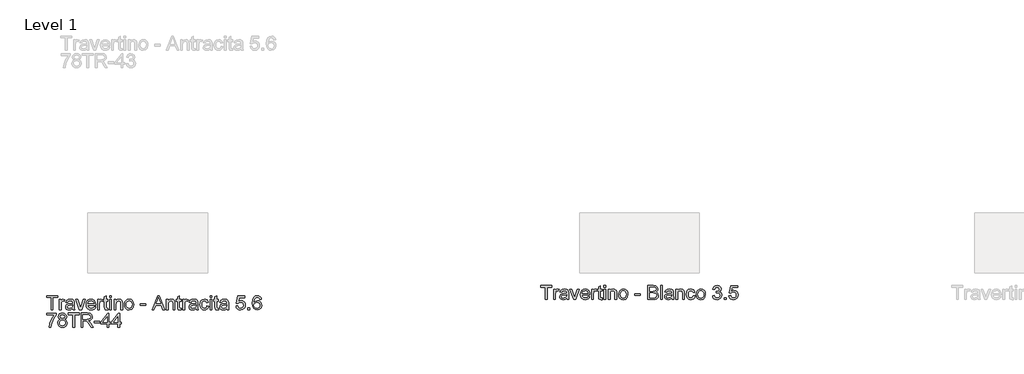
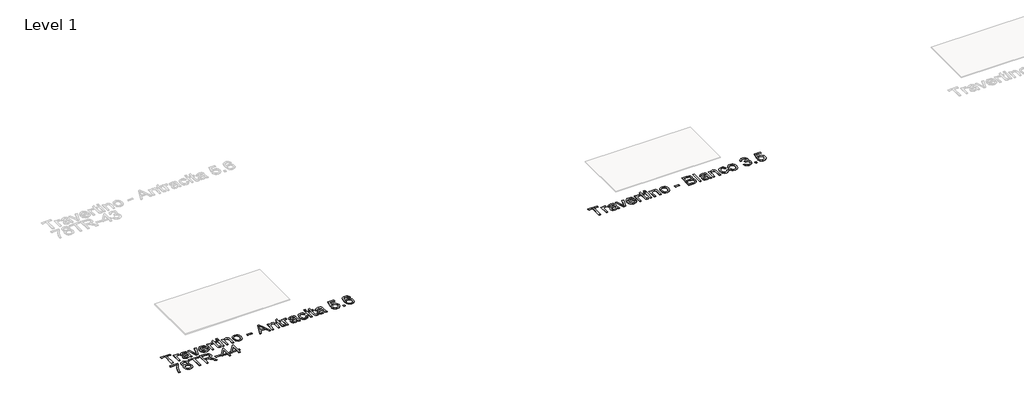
# One storey, part 13 of 80: 2 proxies.
"""IFC4 building model written with IfcOpenShell, lengths in millimetres."""

import ifcopenshell
import ifcopenshell.guid

model = None  # the IFC model being written
_history = None  # IfcOwnerHistory: only IFC2X3 demands one
_inside = {}  # id of a spatial element -> (the spatial element, [elements in it])
_under = {}  # id of a project, library or spatial element -> (it, [spatial elements below it])
_declared = {}  # id of a project -> (the project, [libraries it declares])
_typed = {}  # id of a type object -> (the type object, [elements of that type])
_made_of = {}  # id of a material, layer set ... -> (it, [elements and type objects made of it])


def new_model(schema):
    """Start an empty IFC model of exactly this schema.

    Asked for "IFC4X3", IfcOpenShell would pick the latest addendum, in which some entities
    have other attributes; the version numbers below select the first issue.
    IFC2X3 requires an IfcOwnerHistory on every rooted entity: one is made here for all.
    """
    global model, _history
    if schema == "IFC4X3":
        model = ifcopenshell.file(schema_version=(4, 3, 0, 0))
    else:
        model = ifcopenshell.file(schema=schema)
    _inside.clear()
    _under.clear()
    _declared.clear()
    _typed.clear()
    _made_of.clear()
    _history = None
    if model.schema == "IFC2X3":
        org = make("IfcOrganization", Name="unknown")
        user = make(
            "IfcPersonAndOrganization",
            ThePerson=make("IfcPerson", FamilyName="unknown"),
            TheOrganization=org,
        )
        app = make(
            "IfcApplication",
            ApplicationDeveloper=org,
            Version="unknown",
            ApplicationFullName="unknown",
            ApplicationIdentifier="unknown",
        )
        _history = make(
            "IfcOwnerHistory",
            OwningUser=user,
            OwningApplication=app,
            ChangeAction="ADDED",
            CreationDate=0,
        )
    return model


def make(cls, **values):
    """One entity of the class cls with the attributes given. An attribute that is None is left unset."""
    return model.create_entity(
        cls, **{name: value for name, value in values.items() if value is not None}
    )


def rooted(cls, **values):
    """An entity with a GlobalId (a new one), such as an element, a storey or a relation."""
    return make(cls, GlobalId=ifcopenshell.guid.new(), OwnerHistory=_history, **values)


def si_unit(unit_type, name, prefix=None):
    """IfcSIUnit, for example si_unit("LENGTHUNIT", "METRE", prefix="MILLI")."""
    return make("IfcSIUnit", UnitType=unit_type, Prefix=prefix, Name=name)


def assignment(units):
    """IfcUnitAssignment: the units of a project."""
    return None if units is None else make("IfcUnitAssignment", Units=units)


def point(xyz):
    """IfcCartesianPoint."""
    return None if xyz is None else make("IfcCartesianPoint", Coordinates=xyz)


def direction(xyz):
    """IfcDirection."""
    return None if xyz is None else make("IfcDirection", DirectionRatios=xyz)


def frame(location, z_axis=None, x_axis=None):
    """IfcAxis2Placement3D, a coordinate frame: its origin and axes. An axis left out is left unset."""
    return make(
        "IfcAxis2Placement3D",
        Location=point(location),
        Axis=direction(z_axis),
        RefDirection=direction(x_axis),
    )


def origin():
    """The frame at (0, 0, 0) with its axes left unset."""
    return frame((0.0, 0.0, 0.0))


def origin_with_axes():
    """The frame at (0, 0, 0) with the z axis (0, 0, 1) and the x axis (1, 0, 0) written out."""
    return frame((0.0, 0.0, 0.0), z_axis=(0.0, 0.0, 1.0), x_axis=(1.0, 0.0, 0.0))


def place(relative_to, where):
    """IfcLocalPlacement: puts the frame where relative to a parent placement (None: the world)."""
    return make(
        "IfcLocalPlacement", PlacementRelTo=relative_to, RelativePlacement=where
    )


def context(
    kind, dimensions, precision=None, world=None, true_north=None, identifier=None
):
    """IfcGeometricRepresentationContext, for example the 3D "Model" context."""
    return make(
        "IfcGeometricRepresentationContext",
        ContextIdentifier=identifier,
        ContextType=kind,
        CoordinateSpaceDimension=dimensions,
        Precision=precision,
        WorldCoordinateSystem=world,
        TrueNorth=true_north,
    )


def project(units=None, contexts=None):
    """IfcProject with its units and contexts."""
    return rooted(
        "IfcProject",
        Name="project",
        RepresentationContexts=contexts,
        UnitsInContext=assignment(units),
    )


def spatial(cls, under=None, at=None, **own):
    """A site, building, storey or space (cls), placed at a placement, below another one or the project."""
    s = rooted(cls, ObjectPlacement=at, **own)
    if under is not None:
        _under.setdefault(under.id(), (under, []))[1].append(s)
    return s


def polyline(points):
    """IfcPolyline through the points."""
    return make("IfcPolyline", Points=[point(p) for p in points])


def outline(outer, holes=None, kind="AREA"):
    """IfcArbitraryClosedProfileDef: a profile drawn as a closed curve; with holes, ...WithVoids."""
    if holes is None:
        return make("IfcArbitraryClosedProfileDef", ProfileType=kind, OuterCurve=outer)
    return make(
        "IfcArbitraryProfileDefWithVoids",
        ProfileType=kind,
        OuterCurve=outer,
        InnerCurves=holes,
    )


def extrude(swept, where, along, depth):
    """IfcExtrudedAreaSolid: the profile swept, set in the frame where, extruded along a direction by depth."""
    return make(
        "IfcExtrudedAreaSolid",
        SweptArea=swept,
        Position=where,
        ExtrudedDirection=direction(along),
        Depth=depth,
    )


def shape(context_of_items, identifier, shape_type, items):
    """IfcShapeRepresentation: the items that make up one representation, for example the "Body"."""
    return make(
        "IfcShapeRepresentation",
        ContextOfItems=context_of_items,
        RepresentationIdentifier=identifier,
        RepresentationType=shape_type,
        Items=items,
    )


def made_of(thing, what):
    """Note that an element or type object is made of a material, layer set ...; save() writes the relation."""
    if what is not None:
        _made_of.setdefault(what.id(), (what, []))[1].append(thing)
    return thing


def element(
    cls,
    number,
    at=None,
    inside=None,
    cuts=None,
    type_object=None,
    material=None,
    context=None,
    identifier="Body",
    shape_type=None,
    held_by="IfcProductDefinitionShape",
    body=None,
    shapes=None,
    **own,
):
    """One element of the class cls, such as IfcWall. Its Tag is "e" and its number.

    at: its placement. inside: the storey or other place that contains it. cuts: it is an
    opening in that element (IfcRelVoidsElement). A single representation is given by context,
    identifier, shape_type and body (its items); several are given by shapes. held_by: the class
    of the entity that holds the representations. save() writes the other relations.
    """
    e = rooted(cls, Tag="e%d" % number, ObjectPlacement=at, **own)
    if body is not None:
        shapes = [shape(context, identifier, shape_type, body)]
    if shapes is not None:
        e.Representation = make(held_by, Representations=shapes)
    if inside is not None:
        _inside.setdefault(inside.id(), (inside, []))[1].append(e)
    if cuts is not None:
        rooted(
            "IfcRelVoidsElement", RelatingBuildingElement=cuts, RelatedOpeningElement=e
        )
    if type_object is not None:
        _typed.setdefault(type_object.id(), (type_object, []))[1].append(e)
    return made_of(e, material)


def aggregate(whole, parts):
    """IfcRelAggregates: a whole, such as a stair, and the parts it consists of."""
    return rooted("IfcRelAggregates", RelatingObject=whole, RelatedObjects=parts)


def save(model, path):
    """Write the relations noted so far, then the file.

    IfcRelAggregates (storeys below a building ...), IfcRelContainedInSpatialStructure (elements
    in a storey), IfcRelDefinesByType, IfcRelAssociatesMaterial and IfcRelDeclares: one each for
    every whole, place, type object, material and project.
    """
    for whole, parts in _under.values():
        aggregate(whole, parts)
    for where, things in _inside.values():
        rooted(
            "IfcRelContainedInSpatialStructure",
            RelatedElements=things,
            RelatingStructure=where,
        )
    for kind, things in _typed.values():
        rooted("IfcRelDefinesByType", RelatedObjects=things, RelatingType=kind)
    for what, things in _made_of.values():
        rooted("IfcRelAssociatesMaterial", RelatedObjects=things, RelatingMaterial=what)
    for by, libraries in _declared.values():
        rooted("IfcRelDeclares", RelatingContext=by, RelatedDefinitions=libraries)
    model.write(path)


model = new_model("IFC4")

# Units and contexts
model_context = context("Model", 3, world=origin())
ifc_project = project(units=[si_unit("LENGTHUNIT", "METRE", prefix="MILLI")], contexts=[model_context])

# Site, building, storey
site = spatial("IfcSite", under=ifc_project)
building = spatial("IfcBuilding", under=site)
storey = spatial("IfcBuildingStorey", under=building, Name="Level 1", Elevation=0.0)

# Proxies
placement = place(None, origin())
element("IfcBuildingElementProxy", 1, Name="24\" Arial", ObjectType="24\" Arial", at=placement, inside=storey, context=model_context, shape_type="SweptSolid", body=[
    extrude(outline(polyline([(-23423.1678604, -12507.7661662), (-23423.1678604, -12404.3815508), (-23461.9370911, -12404.3815508), (-23461.9370911, -12389.61232), (-23369.6293988, -12389.61232), (-23369.6293988, -12404.3815508), (-23408.3986296, -12404.3815508), (-23408.3986296, -12507.7661662), (-23423.1678604, -12507.7661662)])), origin_with_axes(), (0.0, 0.0, 1.0), 2.0),
    extrude(outline(polyline([(-23354.8601681, -12507.7661662), (-23354.8601681, -12420.9969354), (-23341.9370911, -12420.9969354), (-23341.9370911, -12433.8334739), (-23332.7640142, -12422.0065508), (-23323.533245, -12419.1507816), (-23308.7063219, -12423.7084739), (-23313.6390142, -12436.9488585), (-23324.0236296, -12433.9200123), (-23332.3745911, -12436.8334739), (-23337.6967065, -12444.9103969), (-23340.0909373, -12462.1603969), (-23340.0909373, -12507.7661662), (-23354.8601681, -12507.7661662)])), origin_with_axes(), (0.0, 0.0, 1.0), 2.0),
    extrude(outline(polyline([(-23244.0909373, -12496.6892431), (-23258.4130527, -12506.6988585), (-23274.2351681, -12509.61232), (-23286.5777161, -12507.8599162), (-23295.6822835, -12502.6027046), (-23301.2964661, -12494.6195316), (-23303.1678604, -12484.6892431), (-23300.3409373, -12473.0065508), (-23292.9130527, -12464.5257816), (-23282.5717065, -12459.6796277), (-23269.7928604, -12457.4584739), (-23244.1774758, -12452.3815508), (-23244.0909373, -12449.0930892), (-23248.158245, -12438.1892431), (-23264.4851681, -12433.9200123), (-23279.4274758, -12436.7613585), (-23286.5524758, -12446.8430892), (-23301.3217065, -12444.9969354), (-23294.9322835, -12430.5738585), (-23282.0668988, -12422.1219354), (-23262.5813219, -12419.1507816), (-23244.6822835, -12421.7757816), (-23234.5717065, -12428.3671277), (-23230.0428604, -12438.3911662), (-23229.3217065, -12451.3142431), (-23229.3217065, -12469.6892431), (-23228.5717065, -12495.3478969), (-23225.6293988, -12507.7661662), (-23240.3986296, -12507.7661662), (-23244.0909373, -12496.6892431)]), holes=[polyline([(-23244.0909373, -12467.1507816), (-23267.9178604, -12471.6796277), (-23280.6245911, -12474.0738585), (-23286.3793988, -12477.9680892), (-23288.3986296, -12483.6507816), (-23283.9995911, -12491.6411662), (-23271.0909373, -12494.8430892), (-23256.1486296, -12491.3094354), (-23246.5140142, -12482.7565508), (-23244.1774758, -12471.3334739), (-23244.0909373, -12467.1507816)])]), origin_with_axes(), (0.0, 0.0, 1.0), 2.0),
    extrude(outline(polyline([(-23187.7255527, -12507.7661662), (-23218.2447835, -12420.9969354), (-23202.6101681, -12420.9969354), (-23184.1197835, -12472.9777046), (-23178.5524758, -12490.4584739), (-23173.1005527, -12473.9584739), (-23154.4947835, -12420.9969354), (-23138.8601681, -12420.9969354), (-23169.0043988, -12507.7661662), (-23187.7255527, -12507.7661662)])), origin_with_axes(), (0.0, 0.0, 1.0), 2.0),
    extrude(outline(polyline([(-23065.1870911, -12481.9200123), (-23050.7063219, -12483.7661662), (-23055.92387, -12494.6772239), (-23064.2495911, -12502.8334739), (-23075.4959854, -12507.9176085), (-23089.4755527, -12509.61232), (-23106.8048796, -12506.6880412), (-23120.1390142, -12497.9152046), (-23128.6414181, -12483.8635219), (-23131.4755527, -12465.1027046), (-23128.6125719, -12445.7108777), (-23120.0236296, -12431.2084739), (-23106.8697835, -12422.1652046), (-23090.3120911, -12419.1507816), (-23074.2700238, -12422.1579931), (-23061.4515142, -12431.1796277), (-23053.0464661, -12445.6531854), (-23050.2447835, -12465.0161662), (-23050.3313219, -12468.9969354), (-23116.7063219, -12468.9969354), (-23114.1498315, -12480.0522239), (-23108.2111296, -12488.1796277), (-23099.6402161, -12493.1772239), (-23089.1870911, -12494.8430892), (-23074.7063219, -12491.7565508), (-23065.1870911, -12481.9200123)]), holes=[polyline([(-23116.7063219, -12454.2277046), (-23065.0140142, -12454.2277046), (-23070.9274758, -12440.8430892), (-23079.5380527, -12435.6507816), (-23090.3697835, -12433.9200123), (-23108.5572835, -12439.4440508), (-23114.2796392, -12445.9019835), (-23116.7063219, -12454.2277046)])]), origin_with_axes(), (0.0, 0.0, 1.0), 2.0),
    extrude(outline(polyline([(-23035.4755527, -12507.7661662), (-23035.4755527, -12420.9969354), (-23022.5524758, -12420.9969354), (-23022.5524758, -12433.8334739), (-23013.3793988, -12422.0065508), (-23004.1486296, -12419.1507816), (-22989.3217065, -12423.7084739), (-22994.2543988, -12436.9488585), (-23004.6390142, -12433.9200123), (-23012.9899758, -12436.8334739), (-23018.3120911, -12444.9103969), (-23020.7063219, -12462.1603969), (-23020.7063219, -12507.7661662), (-23035.4755527, -12507.7661662)])), origin_with_axes(), (0.0, 0.0, 1.0), 2.0),
    extrude(outline(polyline([(-22948.7063219, -12495.4488585), (-22946.8601681, -12508.1988585), (-22957.908245, -12509.61232), (-22970.283245, -12507.1603969), (-22976.4563219, -12500.7277046), (-22978.2447835, -12483.9680892), (-22978.2447835, -12435.7661662), (-22989.3217065, -12435.7661662), (-22989.3217065, -12420.9969354), (-22978.2447835, -12420.9969354), (-22978.2447835, -12399.9103969), (-22963.4755527, -12391.2277046), (-22963.4755527, -12420.9969354), (-22948.7063219, -12420.9969354), (-22948.7063219, -12435.7661662), (-22963.4755527, -12435.7661662), (-22963.4755527, -12483.5353969), (-22962.6967065, -12491.1507816), (-22960.1726681, -12493.8478969), (-22955.1390142, -12494.8430892), (-22948.7063219, -12495.4488585)])), origin_with_axes(), (0.0, 0.0, 1.0), 2.0),
    extrude(outline(polyline([(-22933.9370911, -12404.3815508), (-22933.9370911, -12389.61232), (-22919.1678604, -12389.61232), (-22919.1678604, -12404.3815508), (-22933.9370911, -12404.3815508)])), origin_with_axes(), (0.0, 0.0, 1.0), 2.0),
    extrude(outline(polyline([(-22933.9370911, -12507.7661662), (-22933.9370911, -12420.9969354), (-22919.1678604, -12420.9969354), (-22919.1678604, -12507.7661662), (-22933.9370911, -12507.7661662)])), origin_with_axes(), (0.0, 0.0, 1.0), 2.0),
    extrude(outline(polyline([(-22897.0140142, -12507.7661662), (-22897.0140142, -12420.9969354), (-22882.2447835, -12420.9969354), (-22882.2447835, -12433.11232), (-22870.9515142, -12422.6411662), (-22855.533245, -12419.1507816), (-22841.5861296, -12421.9632816), (-22832.0668988, -12429.3478969), (-22827.6390142, -12440.2084739), (-22826.8601681, -12454.48732), (-22826.8601681, -12507.7661662), (-22841.6293988, -12507.7661662), (-22841.6293988, -12456.4777046), (-22843.3313219, -12443.4103969), (-22849.345745, -12436.5017431), (-22859.4851681, -12433.9200123), (-22875.5092065, -12439.7180892), (-22880.5608892, -12448.1195316), (-22882.2447835, -12461.7277046), (-22882.2447835, -12507.7661662), (-22897.0140142, -12507.7661662)])), origin_with_axes(), (0.0, 0.0, 1.0), 2.0),
    extrude(outline(polyline([(-22810.2447835, -12464.3815508), (-22807.0500719, -12443.4608777), (-22797.4659373, -12428.7565508), (-22785.6245911, -12421.5522239), (-22771.4467065, -12419.1507816), (-22755.9310815, -12422.0750604), (-22743.5380527, -12430.8478969), (-22735.4142546, -12444.7769835), (-22732.7063219, -12463.1700123), (-22737.4947835, -12489.4488585), (-22751.4418988, -12504.3190508), (-22771.4467065, -12509.61232), (-22787.1498315, -12506.6988585), (-22799.5284373, -12497.9584739), (-22807.5656969, -12483.73732), (-22810.2447835, -12464.3815508)]), holes=[polyline([(-22795.4755527, -12464.3527046), (-22793.7664181, -12477.7192912), (-22788.6390142, -12487.2421277), (-22780.9226681, -12492.9428489), (-22771.4467065, -12494.8430892), (-22762.0140142, -12492.9320316), (-22754.3120911, -12487.1988585), (-22749.1846873, -12477.54982), (-22747.4755527, -12463.8911662), (-22749.1955046, -12450.9140027), (-22754.3553604, -12441.5209739), (-22762.0681008, -12435.8202527), (-22771.4467065, -12433.9200123), (-22780.9226681, -12435.8130412), (-22788.6390142, -12441.4921277), (-22793.7664181, -12450.9933296), (-22795.4755527, -12464.3527046)])]), origin_with_axes(), (0.0, 0.0, 1.0), 2.0),
    extrude(outline(polyline([(-22677.3217065, -12472.6892431), (-22677.3217065, -12457.9200123), (-22631.1678604, -12457.9200123), (-22631.1678604, -12472.6892431), (-22677.3217065, -12472.6892431)])), origin_with_axes(), (0.0, 0.0, 1.0), 2.0),
    extrude(outline(polyline([(-22580.3120911, -12507.7661662), (-22533.1486296, -12389.61232), (-22520.5717065, -12389.61232), (-22473.408245, -12507.7661662), (-22489.0140142, -12507.7661662), (-22502.5428604, -12470.8430892), (-22551.2063219, -12470.8430892), (-22564.7063219, -12507.7661662), (-22580.3120911, -12507.7661662)]), holes=[polyline([(-22545.783245, -12456.0738585), (-22507.9370911, -12456.0738585), (-22518.5813219, -12427.0257816), (-22526.8601681, -12404.3815508), (-22534.2159373, -12424.48732), (-22545.783245, -12456.0738585)])]), origin_with_axes(), (0.0, 0.0, 1.0), 2.0),
    extrude(outline(polyline([(-22459.4755527, -12507.7661662), (-22459.4755527, -12420.9969354), (-22444.7063219, -12420.9969354), (-22444.7063219, -12433.11232), (-22433.4130527, -12422.6411662), (-22417.9947835, -12419.1507816), (-22404.0476681, -12421.9632816), (-22394.5284373, -12429.3478969), (-22390.1005527, -12440.2084739), (-22389.3217065, -12454.48732), (-22389.3217065, -12507.7661662), (-22404.0909373, -12507.7661662), (-22404.0909373, -12456.4777046), (-22405.7928604, -12443.4103969), (-22411.8072835, -12436.5017431), (-22421.9467065, -12433.9200123), (-22437.970745, -12439.7180892), (-22443.0224277, -12448.1195316), (-22444.7063219, -12461.7277046), (-22444.7063219, -12507.7661662), (-22459.4755527, -12507.7661662)])), origin_with_axes(), (0.0, 0.0, 1.0), 2.0),
    extrude(outline(polyline([(-22337.6293988, -12495.4488585), (-22335.783245, -12508.1988585), (-22346.8313219, -12509.61232), (-22359.2063219, -12507.1603969), (-22365.3793988, -12500.7277046), (-22367.1678604, -12483.9680892), (-22367.1678604, -12435.7661662), (-22378.2447835, -12435.7661662), (-22378.2447835, -12420.9969354), (-22367.1678604, -12420.9969354), (-22367.1678604, -12399.9103969), (-22352.3986296, -12391.2277046), (-22352.3986296, -12420.9969354), (-22337.6293988, -12420.9969354), (-22337.6293988, -12435.7661662), (-22352.3986296, -12435.7661662), (-22352.3986296, -12483.5353969), (-22351.6197835, -12491.1507816), (-22349.095745, -12493.8478969), (-22344.0620911, -12494.8430892), (-22337.6293988, -12495.4488585)])), origin_with_axes(), (0.0, 0.0, 1.0), 2.0),
    extrude(outline(polyline([(-22322.8601681, -12507.7661662), (-22322.8601681, -12420.9969354), (-22309.9370911, -12420.9969354), (-22309.9370911, -12433.8334739), (-22300.7640142, -12422.0065508), (-22291.533245, -12419.1507816), (-22276.7063219, -12423.7084739), (-22281.6390142, -12436.9488585), (-22292.0236296, -12433.9200123), (-22300.3745911, -12436.8334739), (-22305.6967065, -12444.9103969), (-22308.0909373, -12462.1603969), (-22308.0909373, -12507.7661662), (-22322.8601681, -12507.7661662)])), origin_with_axes(), (0.0, 0.0, 1.0), 2.0),
    extrude(outline(polyline([(-22212.0909373, -12496.6892431), (-22226.4130527, -12506.6988585), (-22242.2351681, -12509.61232), (-22254.5777161, -12507.8599162), (-22263.6822835, -12502.6027046), (-22269.2964661, -12494.6195316), (-22271.1678604, -12484.6892431), (-22268.3409373, -12473.0065508), (-22260.9130527, -12464.5257816), (-22250.5717065, -12459.6796277), (-22237.7928604, -12457.4584739), (-22212.1774758, -12452.3815508), (-22212.0909373, -12449.0930892), (-22216.158245, -12438.1892431), (-22232.4851681, -12433.9200123), (-22247.4274758, -12436.7613585), (-22254.5524758, -12446.8430892), (-22269.3217065, -12444.9969354), (-22262.9322835, -12430.5738585), (-22250.0668988, -12422.1219354), (-22230.5813219, -12419.1507816), (-22212.6822835, -12421.7757816), (-22202.5717065, -12428.3671277), (-22198.0428604, -12438.3911662), (-22197.3217065, -12451.3142431), (-22197.3217065, -12469.6892431), (-22196.5717065, -12495.3478969), (-22193.6293988, -12507.7661662), (-22208.3986296, -12507.7661662), (-22212.0909373, -12496.6892431)]), holes=[polyline([(-22212.0909373, -12467.1507816), (-22235.9178604, -12471.6796277), (-22248.6245911, -12474.0738585), (-22254.3793988, -12477.9680892), (-22256.3986296, -12483.6507816), (-22251.9995911, -12491.6411662), (-22239.0909373, -12494.8430892), (-22224.1486296, -12491.3094354), (-22214.5140142, -12482.7565508), (-22212.1774758, -12471.3334739), (-22212.0909373, -12467.1507816)])]), origin_with_axes(), (0.0, 0.0, 1.0), 2.0),
    extrude(outline(polyline([(-22121.6293988, -12476.3815508), (-22106.8601681, -12478.2277046), (-22110.9779565, -12491.3635219), (-22118.7159373, -12501.2902046), (-22129.345745, -12507.5317912), (-22142.1390142, -12509.61232), (-22157.8493508, -12506.7096758), (-22170.1342065, -12498.0017431), (-22178.0632931, -12483.8707335), (-22180.7063219, -12464.6988585), (-22176.1918988, -12440.1652046), (-22170.4947835, -12430.9668873), (-22162.4322835, -12424.4007816), (-22142.3409373, -12419.1507816), (-22129.86137, -12420.9536662), (-22119.8842065, -12426.36232), (-22112.7267546, -12435.0882816), (-22108.7063219, -12446.8430892), (-22123.4755527, -12448.6892431), (-22130.3265142, -12437.6267431), (-22142.2255527, -12433.9200123), (-22151.7700238, -12435.7445316), (-22159.345745, -12441.2180892), (-22164.2892546, -12450.6363585), (-22165.9370911, -12464.2950123), (-22164.3253123, -12478.1375604), (-22159.4899758, -12487.5882816), (-22152.0512738, -12493.0293873), (-22142.6293988, -12494.8430892), (-22128.7111296, -12490.3142431), (-22121.6293988, -12476.3815508)])), origin_with_axes(), (0.0, 0.0, 1.0), 2.0),
    extrude(outline(polyline([(-22093.9370911, -12404.3815508), (-22093.9370911, -12389.61232), (-22079.1678604, -12389.61232), (-22079.1678604, -12404.3815508), (-22093.9370911, -12404.3815508)])), origin_with_axes(), (0.0, 0.0, 1.0), 2.0),
    extrude(outline(polyline([(-22093.9370911, -12507.7661662), (-22093.9370911, -12420.9969354), (-22079.1678604, -12420.9969354), (-22079.1678604, -12507.7661662), (-22093.9370911, -12507.7661662)])), origin_with_axes(), (0.0, 0.0, 1.0), 2.0),
    extrude(outline(polyline([(-22025.6293988, -12495.4488585), (-22023.783245, -12508.1988585), (-22034.8313219, -12509.61232), (-22047.2063219, -12507.1603969), (-22053.3793988, -12500.7277046), (-22055.1678604, -12483.9680892), (-22055.1678604, -12435.7661662), (-22066.2447835, -12435.7661662), (-22066.2447835, -12420.9969354), (-22055.1678604, -12420.9969354), (-22055.1678604, -12399.9103969), (-22040.3986296, -12391.2277046), (-22040.3986296, -12420.9969354), (-22025.6293988, -12420.9969354), (-22025.6293988, -12435.7661662), (-22040.3986296, -12435.7661662), (-22040.3986296, -12483.5353969), (-22039.6197835, -12491.1507816), (-22037.095745, -12493.8478969), (-22032.0620911, -12494.8430892), (-22025.6293988, -12495.4488585)])), origin_with_axes(), (0.0, 0.0, 1.0), 2.0),
    extrude(outline(polyline([(-21955.4755527, -12496.6892431), (-21969.7976681, -12506.6988585), (-21985.6197835, -12509.61232), (-21997.9623315, -12507.8599162), (-22007.0668988, -12502.6027046), (-22012.6810815, -12494.6195316), (-22014.5524758, -12484.6892431), (-22011.7255527, -12473.0065508), (-22004.2976681, -12464.5257816), (-21993.9563219, -12459.6796277), (-21981.1774758, -12457.4584739), (-21955.5620911, -12452.3815508), (-21955.4755527, -12449.0930892), (-21959.5428604, -12438.1892431), (-21975.8697835, -12433.9200123), (-21990.8120911, -12436.7613585), (-21997.9370911, -12446.8430892), (-22012.7063219, -12444.9969354), (-22006.3168988, -12430.5738585), (-21993.4515142, -12422.1219354), (-21973.9659373, -12419.1507816), (-21956.0668988, -12421.7757816), (-21945.9563219, -12428.3671277), (-21941.4274758, -12438.3911662), (-21940.7063219, -12451.3142431), (-21940.7063219, -12469.6892431), (-21939.9563219, -12495.3478969), (-21937.0140142, -12507.7661662), (-21951.783245, -12507.7661662), (-21955.4755527, -12496.6892431)]), holes=[polyline([(-21955.4755527, -12467.1507816), (-21979.3024758, -12471.6796277), (-21992.0092065, -12474.0738585), (-21997.7640142, -12477.9680892), (-21999.783245, -12483.6507816), (-21995.3842065, -12491.6411662), (-21982.4755527, -12494.8430892), (-21967.533245, -12491.3094354), (-21957.8986296, -12482.7565508), (-21955.5620911, -12471.3334739), (-21955.4755527, -12467.1507816)])]), origin_with_axes(), (0.0, 0.0, 1.0), 2.0),
    extrude(outline(polyline([(-21877.9370911, -12476.3815508), (-21863.1678604, -12474.5353969), (-21855.7255527, -12489.7517431), (-21840.2928604, -12494.8430892), (-21829.7063219, -12493.0726566), (-21821.7736296, -12487.7613585), (-21816.8193027, -12479.5221758), (-21815.1678604, -12468.9680892), (-21816.7147354, -12459.0305892), (-21821.3553604, -12451.4296277), (-21829.1257931, -12446.6051085), (-21840.0620911, -12444.9969354), (-21853.0284373, -12447.5642431), (-21861.3217065, -12454.2277046), (-21876.0909373, -12452.3815508), (-21863.1678604, -12391.4584739), (-21805.9370911, -12391.4584739), (-21805.9370911, -12406.2277046), (-21851.2255527, -12406.2277046), (-21857.5428604, -12438.7661662), (-21846.9923796, -12432.36232), (-21835.9370911, -12430.2277046), (-21822.1378123, -12432.8743392), (-21810.6822835, -12440.8142431), (-21802.9695431, -12452.9152046), (-21800.3986296, -12468.0450123), (-21802.7135335, -12482.8142431), (-21809.658245, -12495.4488585), (-21822.9563219, -12506.0714546), (-21840.3505527, -12509.61232), (-21854.8565623, -12507.3370796), (-21866.4130527, -12500.5113585), (-21874.3349277, -12489.9284258), (-21877.9370911, -12476.3815508)])), origin_with_axes(), (0.0, 0.0, 1.0), 2.0),
    extrude(outline(polyline([(-21780.0909373, -12507.7661662), (-21780.0909373, -12492.9969354), (-21765.3217065, -12492.9969354), (-21765.3217065, -12507.7661662), (-21780.0909373, -12507.7661662)])), origin_with_axes(), (0.0, 0.0, 1.0), 2.0),
    extrude(outline(polyline([(-21665.6293988, -12420.9969354), (-21680.3986296, -12422.8430892), (-21685.9947835, -12410.5257816), (-21692.6943027, -12405.9176085), (-21700.7928604, -12404.3815508), (-21714.1197835, -12407.9584739), (-21724.2015142, -12421.3863585), (-21728.3986296, -12447.7084739), (-21715.3745911, -12435.92482), (-21699.2351681, -12432.0738585), (-21685.5909373, -12434.70607), (-21674.1390142, -12442.6027046), (-21666.3721873, -12454.6676085), (-21663.783245, -12469.8046277), (-21668.658245, -12490.1844354), (-21682.0717065, -12504.6075123), (-21701.4274758, -12509.61232), (-21718.1834854, -12506.2950123), (-21731.5284373, -12496.3430892), (-21740.2580046, -12478.7757816), (-21743.1678604, -12452.61232), (-21739.9370911, -12423.1964546), (-21730.2447835, -12403.0834739), (-21717.0116104, -12392.9801085), (-21699.8697835, -12389.61232), (-21686.9106488, -12391.6964546), (-21676.533245, -12397.9488585), (-21669.2640142, -12407.8791469), (-21665.6293988, -12420.9969354)]), holes=[polyline([(-21728.3986296, -12469.5738585), (-21724.9803604, -12482.3671277), (-21715.8938219, -12491.6555892), (-21702.5813219, -12494.8430892), (-21692.8349277, -12493.1916469), (-21685.1726681, -12488.23732), (-21680.2075238, -12480.4488585), (-21678.5524758, -12470.2950123), (-21680.1858892, -12460.5486181), (-21685.0861296, -12453.1171277), (-21692.8781969, -12448.4115989), (-21703.1870911, -12446.8430892), (-21712.9190623, -12448.4115989), (-21721.0572835, -12453.1171277), (-21726.5632931, -12460.3683296), (-21728.3986296, -12469.5738585)])]), origin_with_axes(), (0.0, 0.0, 1.0), 2.0),
    extrude(outline(polyline([(-23458.2447835, -12552.0738585), (-23458.2447835, -12537.3046277), (-23380.7063219, -12537.3046277), (-23380.7063219, -12549.2469354), (-23402.7015142, -12581.0209739), (-23419.533245, -12621.5065508), (-23425.0140142, -12653.61232), (-23439.783245, -12653.61232), (-23433.9130527, -12620.2950123), (-23417.8024758, -12582.6363585), (-23395.4755527, -12552.0738585), (-23458.2447835, -12552.0738585)])), origin_with_axes(), (0.0, 0.0, 1.0), 2.0),
    extrude(outline(polyline([(-23346.2640142, -12588.5353969), (-23359.720745, -12579.36232), (-23364.0909373, -12565.0834739), (-23361.7111296, -12553.5378008), (-23354.5717065, -12543.9969354), (-23343.4731488, -12537.5930892), (-23329.2159373, -12535.4584739), (-23314.8721873, -12537.64357), (-23303.6293988, -12544.1988585), (-23296.3601681, -12553.8911662), (-23293.9370911, -12565.48732), (-23298.2495911, -12579.4055892), (-23311.3313219, -12588.5353969), (-23302.2411777, -12593.2192912), (-23295.6245911, -12600.1171277), (-23290.2447835, -12619.2277046), (-23292.9130527, -12633.3478969), (-23300.9178604, -12645.0161662), (-23313.2784373, -12652.8478969), (-23329.0140142, -12655.4584739), (-23344.7495911, -12652.8370796), (-23357.1101681, -12644.9728969), (-23365.1149758, -12633.1928489), (-23367.783245, -12618.8238585), (-23366.3842065, -12608.0930892), (-23362.1870911, -12599.2661662), (-23355.408245, -12592.6459739), (-23346.2640142, -12588.5353969)]), holes=[polyline([(-23353.0140142, -12618.3046277), (-23350.5476681, -12629.42482), (-23341.8217065, -12637.7469354), (-23328.8986296, -12640.6892431), (-23318.845745, -12639.1423681), (-23311.3024758, -12634.5017431), (-23306.5861296, -12627.4740989), (-23305.0140142, -12618.7661662), (-23306.6366104, -12609.9103969), (-23311.5043988, -12602.7277046), (-23319.220745, -12597.9680892), (-23329.3890142, -12596.3815508), (-23339.3012738, -12597.9464546), (-23346.7688219, -12602.6411662), (-23351.4527161, -12609.6868392), (-23353.0140142, -12618.3046277)]), polyline([(-23349.3217065, -12565.5161662), (-23344.0861296, -12577.11232), (-23328.8409373, -12581.61232), (-23313.8986296, -12577.1411662), (-23308.7063219, -12566.1796277), (-23314.0717065, -12554.8286662), (-23329.0140142, -12550.2277046), (-23343.9995911, -12554.7277046), (-23349.3217065, -12565.5161662)])]), origin_with_axes(), (0.0, 0.0, 1.0), 2.0),
    extrude(outline(polyline([(-23242.2447835, -12653.61232), (-23242.2447835, -12550.2277046), (-23281.0140142, -12550.2277046), (-23281.0140142, -12535.4584739), (-23188.7063219, -12535.4584739), (-23188.7063219, -12550.2277046), (-23227.4755527, -12550.2277046), (-23227.4755527, -12653.61232), (-23242.2447835, -12653.61232)])), origin_with_axes(), (0.0, 0.0, 1.0), 2.0),
    extrude(outline(polyline([(-23172.0909373, -12653.61232), (-23172.0909373, -12535.4584739), (-23121.1774758, -12535.4584739), (-23097.5380527, -12538.6459739), (-23084.6149758, -12549.92482), (-23079.783245, -12567.7950123), (-23081.7844469, -12579.4344354), (-23087.7880527, -12589.0834739), (-23097.9743508, -12596.1579931), (-23112.5236296, -12600.0738585), (-23104.1293988, -12606.3911662), (-23092.158245, -12621.5930892), (-23072.4563219, -12653.61232), (-23089.6197835, -12653.61232), (-23104.9947835, -12629.1219354), (-23116.1005527, -12612.9103969), (-23123.9034373, -12605.2517431), (-23130.9274758, -12602.4392431), (-23139.4947835, -12601.9200123), (-23157.3217065, -12601.9200123), (-23157.3217065, -12653.61232), (-23172.0909373, -12653.61232)]), holes=[polyline([(-23157.3217065, -12587.1507816), (-23124.2640142, -12587.1507816), (-23107.4034373, -12585.0594354), (-23097.8265142, -12578.3671277), (-23094.5524758, -12568.3430892), (-23096.1137738, -12561.1387623), (-23100.7976681, -12555.3334739), (-23108.8565623, -12551.5041469), (-23120.5428604, -12550.2277046), (-23157.3217065, -12550.2277046), (-23157.3217065, -12587.1507816)])]), origin_with_axes(), (0.0, 0.0, 1.0), 2.0),
    extrude(outline(polyline([(-23063.1678604, -12618.5353969), (-23063.1678604, -12603.7661662), (-23017.0140142, -12603.7661662), (-23017.0140142, -12618.5353969), (-23063.1678604, -12618.5353969)])), origin_with_axes(), (0.0, 0.0, 1.0), 2.0),
    extrude(outline(polyline([(-22956.0909373, -12653.61232), (-22956.0909373, -12625.9200123), (-23009.6293988, -12625.9200123), (-23009.6293988, -12611.1507816), (-22952.3986296, -12537.3046277), (-22941.3217065, -12537.3046277), (-22941.3217065, -12611.1507816), (-22926.5524758, -12611.1507816), (-22926.5524758, -12625.9200123), (-22941.3217065, -12625.9200123), (-22941.3217065, -12653.61232), (-22956.0909373, -12653.61232)]), holes=[polyline([(-22956.0909373, -12611.1507816), (-22956.0909373, -12565.5161662), (-22991.4563219, -12611.1507816), (-22956.0909373, -12611.1507816)])]), origin_with_axes(), (0.0, 0.0, 1.0), 2.0),
    extrude(outline(polyline([(-22865.6293988, -12653.61232), (-22865.6293988, -12625.9200123), (-22919.1678604, -12625.9200123), (-22919.1678604, -12611.1507816), (-22861.9370911, -12537.3046277), (-22850.8601681, -12537.3046277), (-22850.8601681, -12611.1507816), (-22836.0909373, -12611.1507816), (-22836.0909373, -12625.9200123), (-22850.8601681, -12625.9200123), (-22850.8601681, -12653.61232), (-22865.6293988, -12653.61232)]), holes=[polyline([(-22865.6293988, -12611.1507816), (-22865.6293988, -12565.5161662), (-22900.9947835, -12611.1507816), (-22865.6293988, -12611.1507816)])]), origin_with_axes(), (0.0, 0.0, 1.0), 2.0),
])
element("IfcBuildingElementProxy", 2, Name="24\" Arial", ObjectType="24\" Arial", at=placement, inside=storey, context=model_context, shape_type="SweptSolid", body=[
    extrude(outline(polyline([(-19292.9222617, -12422.5921493), (-19292.9222617, -12319.2075339), (-19331.6914925, -12319.2075339), (-19331.6914925, -12304.4383031), (-19239.3838002, -12304.4383031), (-19239.3838002, -12319.2075339), (-19278.153031, -12319.2075339), (-19278.153031, -12422.5921493), (-19292.9222617, -12422.5921493)])), origin_with_axes(), (0.0, 0.0, 1.0), 2.0),
    extrude(outline(polyline([(-19224.6145694, -12422.5921493), (-19224.6145694, -12335.8229185), (-19211.6914925, -12335.8229185), (-19211.6914925, -12348.659457), (-19202.5184156, -12336.8325339), (-19193.2876464, -12333.9767646), (-19178.4607233, -12338.534457), (-19183.3934156, -12351.7748416), (-19193.778031, -12348.7459954), (-19202.1289925, -12351.659457), (-19207.4511079, -12359.73638), (-19209.8453387, -12376.98638), (-19209.8453387, -12422.5921493), (-19224.6145694, -12422.5921493)])), origin_with_axes(), (0.0, 0.0, 1.0), 2.0),
    extrude(outline(polyline([(-19113.8453387, -12411.5152262), (-19128.1674541, -12421.5248416), (-19143.9895694, -12424.4383031), (-19156.3321175, -12422.6858993), (-19165.4366848, -12417.4286877), (-19171.0508675, -12409.4455146), (-19172.9222617, -12399.5152262), (-19170.0953387, -12387.8325339), (-19162.6674541, -12379.3517646), (-19152.3261079, -12374.5056108), (-19139.5472617, -12372.284457), (-19113.9318771, -12367.2075339), (-19113.8453387, -12363.9190723), (-19117.9126464, -12353.0152262), (-19134.2395694, -12348.7459954), (-19149.1818771, -12351.5873416), (-19156.3068771, -12361.6690723), (-19171.0761079, -12359.8229185), (-19164.6866848, -12345.3998416), (-19151.8213002, -12336.9479185), (-19132.3357233, -12333.9767646), (-19114.4366848, -12336.6017646), (-19104.3261079, -12343.1931108), (-19099.7972617, -12353.2171493), (-19099.0761079, -12366.1402262), (-19099.0761079, -12384.5152262), (-19098.3261079, -12410.17388), (-19095.3838002, -12422.5921493), (-19110.153031, -12422.5921493), (-19113.8453387, -12411.5152262)]), holes=[polyline([(-19113.8453387, -12381.9767646), (-19137.6722617, -12386.5056108), (-19150.3789925, -12388.8998416), (-19156.1338002, -12392.7940723), (-19158.153031, -12398.4767646), (-19153.7539925, -12406.4671493), (-19140.8453387, -12409.6690723), (-19125.903031, -12406.1354185), (-19116.2684156, -12397.5825339), (-19113.9318771, -12386.159457), (-19113.8453387, -12381.9767646)])]), origin_with_axes(), (0.0, 0.0, 1.0), 2.0),
    extrude(outline(polyline([(-19057.4799541, -12422.5921493), (-19087.9991848, -12335.8229185), (-19072.3645694, -12335.8229185), (-19053.8741848, -12387.8036877), (-19048.3068771, -12405.284457), (-19042.8549541, -12388.784457), (-19024.2491848, -12335.8229185), (-19008.6145694, -12335.8229185), (-19038.7588002, -12422.5921493), (-19057.4799541, -12422.5921493)])), origin_with_axes(), (0.0, 0.0, 1.0), 2.0),
    extrude(outline(polyline([(-18934.9414925, -12396.7459954), (-18920.4607233, -12398.5921493), (-18925.6782714, -12409.503207), (-18934.0039925, -12417.659457), (-18945.2503867, -12422.7435916), (-18959.2299541, -12424.4383031), (-18976.559281, -12421.5140243), (-18989.8934156, -12412.7411877), (-18998.3958194, -12398.689505), (-19001.2299541, -12379.9286877), (-18998.3669733, -12360.5368608), (-18989.778031, -12346.034457), (-18976.6241848, -12336.9911877), (-18960.0664925, -12333.9767646), (-18944.0244252, -12336.9839762), (-18931.2059156, -12346.0056108), (-18922.8008675, -12360.4791685), (-18919.9991848, -12379.8421493), (-18920.0857233, -12383.8229185), (-18986.4607233, -12383.8229185), (-18983.9042329, -12394.878207), (-18977.965531, -12403.0056108), (-18969.3946175, -12408.003207), (-18958.9414925, -12409.6690723), (-18944.4607233, -12406.5825339), (-18934.9414925, -12396.7459954)]), holes=[polyline([(-18986.4607233, -12369.0536877), (-18934.7684156, -12369.0536877), (-18940.6818771, -12355.6690723), (-18949.2924541, -12350.4767646), (-18960.1241848, -12348.7459954), (-18978.3116848, -12354.2700339), (-18984.0340406, -12360.7279666), (-18986.4607233, -12369.0536877)])]), origin_with_axes(), (0.0, 0.0, 1.0), 2.0),
    extrude(outline(polyline([(-18905.2299541, -12422.5921493), (-18905.2299541, -12335.8229185), (-18892.3068771, -12335.8229185), (-18892.3068771, -12348.659457), (-18883.1338002, -12336.8325339), (-18873.903031, -12333.9767646), (-18859.0761079, -12338.534457), (-18864.0088002, -12351.7748416), (-18874.3934156, -12348.7459954), (-18882.7443771, -12351.659457), (-18888.0664925, -12359.73638), (-18890.4607233, -12376.98638), (-18890.4607233, -12422.5921493), (-18905.2299541, -12422.5921493)])), origin_with_axes(), (0.0, 0.0, 1.0), 2.0),
    extrude(outline(polyline([(-18818.4607233, -12410.2748416), (-18816.6145694, -12423.0248416), (-18827.6626464, -12424.4383031), (-18840.0376464, -12421.98638), (-18846.2107233, -12415.5536877), (-18847.9991848, -12398.7940723), (-18847.9991848, -12350.5921493), (-18859.0761079, -12350.5921493), (-18859.0761079, -12335.8229185), (-18847.9991848, -12335.8229185), (-18847.9991848, -12314.73638), (-18833.2299541, -12306.0536877), (-18833.2299541, -12335.8229185), (-18818.4607233, -12335.8229185), (-18818.4607233, -12350.5921493), (-18833.2299541, -12350.5921493), (-18833.2299541, -12398.36138), (-18832.4511079, -12405.9767646), (-18829.9270694, -12408.67388), (-18824.8934156, -12409.6690723), (-18818.4607233, -12410.2748416)])), origin_with_axes(), (0.0, 0.0, 1.0), 2.0),
    extrude(outline(polyline([(-18803.6914925, -12319.2075339), (-18803.6914925, -12304.4383031), (-18788.9222617, -12304.4383031), (-18788.9222617, -12319.2075339), (-18803.6914925, -12319.2075339)])), origin_with_axes(), (0.0, 0.0, 1.0), 2.0),
    extrude(outline(polyline([(-18803.6914925, -12422.5921493), (-18803.6914925, -12335.8229185), (-18788.9222617, -12335.8229185), (-18788.9222617, -12422.5921493), (-18803.6914925, -12422.5921493)])), origin_with_axes(), (0.0, 0.0, 1.0), 2.0),
    extrude(outline(polyline([(-18766.7684156, -12422.5921493), (-18766.7684156, -12335.8229185), (-18751.9991848, -12335.8229185), (-18751.9991848, -12347.9383031), (-18740.7059156, -12337.4671493), (-18725.2876464, -12333.9767646), (-18711.340531, -12336.7892646), (-18701.8213002, -12344.17388), (-18697.3934156, -12355.034457), (-18696.6145694, -12369.3133031), (-18696.6145694, -12422.5921493), (-18711.3838002, -12422.5921493), (-18711.3838002, -12371.3036877), (-18713.0857233, -12358.23638), (-18719.1001464, -12351.3277262), (-18729.2395694, -12348.7459954), (-18745.2636079, -12354.5440723), (-18750.3152906, -12362.9455146), (-18751.9991848, -12376.5536877), (-18751.9991848, -12422.5921493), (-18766.7684156, -12422.5921493)])), origin_with_axes(), (0.0, 0.0, 1.0), 2.0),
    extrude(outline(polyline([(-18679.9991848, -12379.2075339), (-18676.8044733, -12358.2868608), (-18667.2203387, -12343.5825339), (-18655.3789925, -12336.378207), (-18641.2011079, -12333.9767646), (-18625.6854829, -12336.9010435), (-18613.2924541, -12345.67388), (-18605.168656, -12359.6029666), (-18602.4607233, -12377.9959954), (-18607.2491848, -12404.2748416), (-18621.1963002, -12419.1450339), (-18641.2011079, -12424.4383031), (-18656.9042329, -12421.5248416), (-18669.2828387, -12412.784457), (-18677.3200983, -12398.5633031), (-18679.9991848, -12379.2075339)]), holes=[polyline([(-18665.2299541, -12379.1786877), (-18663.5208194, -12392.5452743), (-18658.3934156, -12402.0681108), (-18650.6770694, -12407.768832), (-18641.2011079, -12409.6690723), (-18631.7684156, -12407.7580146), (-18624.0664925, -12402.0248416), (-18618.9390887, -12392.3758031), (-18617.2299541, -12378.7171493), (-18618.949906, -12365.7399858), (-18624.1097617, -12356.346957), (-18631.8225021, -12350.6462358), (-18641.2011079, -12348.7459954), (-18650.6770694, -12350.6390243), (-18658.3934156, -12356.3181108), (-18663.5208194, -12365.8193127), (-18665.2299541, -12379.1786877)])]), origin_with_axes(), (0.0, 0.0, 1.0), 2.0),
    extrude(outline(polyline([(-18547.0761079, -12387.5152262), (-18547.0761079, -12372.7459954), (-18500.9222617, -12372.7459954), (-18500.9222617, -12387.5152262), (-18547.0761079, -12387.5152262)])), origin_with_axes(), (0.0, 0.0, 1.0), 2.0),
    extrude(outline(polyline([(-18436.3068771, -12422.5921493), (-18436.3068771, -12304.4383031), (-18391.2203387, -12304.4383031), (-18369.1386079, -12307.9142646), (-18356.1001464, -12318.6017646), (-18351.3838002, -12333.7171493), (-18355.3501464, -12347.5200339), (-18367.3357233, -12357.9767646), (-18352.7828387, -12368.9959954), (-18347.6914925, -12387.3709954), (-18351.1674541, -12403.2508031), (-18359.778031, -12414.5584954), (-18372.6289925, -12420.5584954), (-18391.5664925, -12422.5921493), (-18436.3068771, -12422.5921493)]), holes=[polyline([(-18421.5376464, -12407.8229185), (-18391.2491848, -12407.8229185), (-18380.2876464, -12407.2459954), (-18371.0136079, -12404.0296493), (-18364.8693771, -12397.4671493), (-18362.4607233, -12387.5152262), (-18365.2876464, -12376.034457), (-18374.4463002, -12369.1834954), (-18392.6914925, -12367.2075339), (-18421.5376464, -12367.2075339), (-18421.5376464, -12407.8229185)]), polyline([(-18421.5376464, -12352.4383031), (-18394.5664925, -12352.4383031), (-18378.8164925, -12351.1690723), (-18369.340531, -12345.7027262), (-18366.153031, -12336.0825339), (-18369.1241848, -12326.4479185), (-18377.6338002, -12320.7508031), (-18396.6145694, -12319.2075339), (-18421.5376464, -12319.2075339), (-18421.5376464, -12352.4383031)])]), origin_with_axes(), (0.0, 0.0, 1.0), 2.0),
    extrude(outline(polyline([(-18329.2299541, -12422.5921493), (-18329.2299541, -12304.4383031), (-18314.4607233, -12304.4383031), (-18314.4607233, -12422.5921493), (-18329.2299541, -12422.5921493)])), origin_with_axes(), (0.0, 0.0, 1.0), 2.0),
    extrude(outline(polyline([(-18236.9222617, -12411.5152262), (-18251.2443771, -12421.5248416), (-18267.0664925, -12424.4383031), (-18279.4090406, -12422.6858993), (-18288.5136079, -12417.4286877), (-18294.1277906, -12409.4455146), (-18295.9991848, -12399.5152262), (-18293.1722617, -12387.8325339), (-18285.7443771, -12379.3517646), (-18275.403031, -12374.5056108), (-18262.6241848, -12372.284457), (-18237.0088002, -12367.2075339), (-18236.9222617, -12363.9190723), (-18240.9895694, -12353.0152262), (-18257.3164925, -12348.7459954), (-18272.2588002, -12351.5873416), (-18279.3838002, -12361.6690723), (-18294.153031, -12359.8229185), (-18287.7636079, -12345.3998416), (-18274.8982233, -12336.9479185), (-18255.4126464, -12333.9767646), (-18237.5136079, -12336.6017646), (-18227.403031, -12343.1931108), (-18222.8741848, -12353.2171493), (-18222.153031, -12366.1402262), (-18222.153031, -12384.5152262), (-18221.403031, -12410.17388), (-18218.4607233, -12422.5921493), (-18233.2299541, -12422.5921493), (-18236.9222617, -12411.5152262)]), holes=[polyline([(-18236.9222617, -12381.9767646), (-18260.7491848, -12386.5056108), (-18273.4559156, -12388.8998416), (-18279.2107233, -12392.7940723), (-18281.2299541, -12398.4767646), (-18276.8309156, -12406.4671493), (-18263.9222617, -12409.6690723), (-18248.9799541, -12406.1354185), (-18239.3453387, -12397.5825339), (-18237.0088002, -12386.159457), (-18236.9222617, -12381.9767646)])]), origin_with_axes(), (0.0, 0.0, 1.0), 2.0),
    extrude(outline(polyline([(-18201.8453387, -12422.5921493), (-18201.8453387, -12335.8229185), (-18187.0761079, -12335.8229185), (-18187.0761079, -12347.9383031), (-18175.7828387, -12337.4671493), (-18160.3645694, -12333.9767646), (-18146.4174541, -12336.7892646), (-18136.8982233, -12344.17388), (-18132.4703387, -12355.034457), (-18131.6914925, -12369.3133031), (-18131.6914925, -12422.5921493), (-18146.4607233, -12422.5921493), (-18146.4607233, -12371.3036877), (-18148.1626464, -12358.23638), (-18154.1770694, -12351.3277262), (-18164.3164925, -12348.7459954), (-18180.340531, -12354.5440723), (-18185.3922137, -12362.9455146), (-18187.0761079, -12376.5536877), (-18187.0761079, -12422.5921493), (-18201.8453387, -12422.5921493)])), origin_with_axes(), (0.0, 0.0, 1.0), 2.0),
    extrude(outline(polyline([(-18055.9991848, -12391.2075339), (-18041.2299541, -12393.0536877), (-18045.3477425, -12406.189505), (-18053.0857233, -12416.1161877), (-18063.715531, -12422.3577743), (-18076.5088002, -12424.4383031), (-18092.2191367, -12421.5356589), (-18104.5039925, -12412.8277262), (-18112.4330791, -12398.6967166), (-18115.0761079, -12379.5248416), (-18110.5616848, -12354.9911877), (-18104.8645694, -12345.7928704), (-18096.8020694, -12339.2267646), (-18076.7107233, -12333.9767646), (-18064.231156, -12335.7796493), (-18054.2539925, -12341.1883031), (-18047.0965406, -12349.9142646), (-18043.0761079, -12361.6690723), (-18057.8453387, -12363.5152262), (-18064.6963002, -12352.4527262), (-18076.5953387, -12348.7459954), (-18086.1398098, -12350.5705146), (-18093.715531, -12356.0440723), (-18098.6590406, -12365.4623416), (-18100.3068771, -12379.1209954), (-18098.6950983, -12392.9635435), (-18093.8597617, -12402.4142646), (-18086.4210598, -12407.8553704), (-18076.9991848, -12409.6690723), (-18063.0809156, -12405.1402262), (-18055.9991848, -12391.2075339)])), origin_with_axes(), (0.0, 0.0, 1.0), 2.0),
    extrude(outline(polyline([(-18031.9991848, -12379.2075339), (-18028.8044733, -12358.2868608), (-18019.2203387, -12343.5825339), (-18007.3789925, -12336.378207), (-17993.2011079, -12333.9767646), (-17977.6854829, -12336.9010435), (-17965.2924541, -12345.67388), (-17957.168656, -12359.6029666), (-17954.4607233, -12377.9959954), (-17959.2491848, -12404.2748416), (-17973.1963002, -12419.1450339), (-17993.2011079, -12424.4383031), (-18008.9042329, -12421.5248416), (-18021.2828387, -12412.784457), (-18029.3200983, -12398.5633031), (-18031.9991848, -12379.2075339)]), holes=[polyline([(-18017.2299541, -12379.1786877), (-18015.5208194, -12392.5452743), (-18010.3934156, -12402.0681108), (-18002.6770694, -12407.768832), (-17993.2011079, -12409.6690723), (-17983.7684156, -12407.7580146), (-17976.0664925, -12402.0248416), (-17970.9390887, -12392.3758031), (-17969.2299541, -12378.7171493), (-17970.949906, -12365.7399858), (-17976.1097617, -12356.346957), (-17983.8225021, -12350.6462358), (-17993.2011079, -12348.7459954), (-18002.6770694, -12350.6390243), (-18010.3934156, -12356.3181108), (-18015.5208194, -12365.8193127), (-18017.2299541, -12379.1786877)])]), origin_with_axes(), (0.0, 0.0, 1.0), 2.0),
    extrude(outline(polyline([(-17895.3838002, -12391.2075339), (-17880.6145694, -12389.36138), (-17872.465531, -12404.909457), (-17857.2203387, -12409.6690723), (-17847.0953387, -12408.0320531), (-17839.278031, -12403.1209954), (-17834.2804348, -12395.7940723), (-17832.6145694, -12386.909457), (-17834.2660117, -12378.4755627), (-17839.2203387, -12371.6354185), (-17846.7203387, -12367.1029666), (-17856.0088002, -12365.5921493), (-17866.3645694, -12367.2075339), (-17864.7203387, -12352.4383031), (-17862.3549541, -12352.61138), (-17845.5953387, -12348.3709954), (-17840.0136079, -12342.9911877), (-17838.153031, -12335.3325339), (-17843.5472617, -12323.7796493), (-17857.4511079, -12319.2075339), (-17871.528031, -12323.8229185), (-17878.7684156, -12337.6690723), (-17893.5376464, -12335.8229185), (-17889.1890887, -12322.5608993), (-17881.4511079, -12312.659457), (-17870.8645694, -12306.4935916), (-17857.9703387, -12304.4383031), (-17840.1578387, -12308.4911877), (-17827.6963002, -12319.5681108), (-17823.3838002, -12334.4671493), (-17827.4799541, -12348.0825339), (-17839.5953387, -12357.86138), (-17830.3501464, -12361.596957), (-17823.4991848, -12367.9575339), (-17819.2588002, -12376.596957), (-17817.8453387, -12387.1690723), (-17820.6722617, -12401.5633031), (-17829.153031, -12413.5921493), (-17841.9535117, -12421.7267646), (-17857.7395694, -12424.4383031), (-17872.0184156, -12422.1233993), (-17883.6434156, -12415.1786877), (-17891.7275502, -12404.5560916), (-17895.3838002, -12391.2075339)])), origin_with_axes(), (0.0, 0.0, 1.0), 2.0),
    extrude(outline(polyline([(-17797.5376464, -12422.5921493), (-17797.5376464, -12407.8229185), (-17782.7684156, -12407.8229185), (-17782.7684156, -12422.5921493), (-17797.5376464, -12422.5921493)])), origin_with_axes(), (0.0, 0.0, 1.0), 2.0),
    extrude(outline(polyline([(-17758.7684156, -12391.2075339), (-17743.9991848, -12389.36138), (-17736.5568771, -12404.5777262), (-17721.1241848, -12409.6690723), (-17710.5376464, -12407.8986396), (-17702.6049541, -12402.5873416), (-17697.6506271, -12394.3481589), (-17695.9991848, -12383.7940723), (-17697.5460598, -12373.8565723), (-17702.1866848, -12366.2556108), (-17709.9571175, -12361.4310916), (-17720.8934156, -12359.8229185), (-17733.8597617, -12362.3902262), (-17742.153031, -12369.0536877), (-17756.9222617, -12367.2075339), (-17743.9991848, -12306.284457), (-17686.7684156, -12306.284457), (-17686.7684156, -12321.0536877), (-17732.0568771, -12321.0536877), (-17738.3741848, -12353.5921493), (-17727.8237041, -12347.1883031), (-17716.7684156, -12345.0536877), (-17702.9691367, -12347.7003223), (-17691.5136079, -12355.6402262), (-17683.8008675, -12367.7411877), (-17681.2299541, -12382.8709954), (-17683.5448579, -12397.6402262), (-17690.4895694, -12410.2748416), (-17703.7876464, -12420.8974377), (-17721.1818771, -12424.4383031), (-17735.6878867, -12422.1630627), (-17747.2443771, -12415.3373416), (-17755.1662521, -12404.7544089), (-17758.7684156, -12391.2075339)])), origin_with_axes(), (0.0, 0.0, 1.0), 2.0),
])

save(model, "model.ifc")
